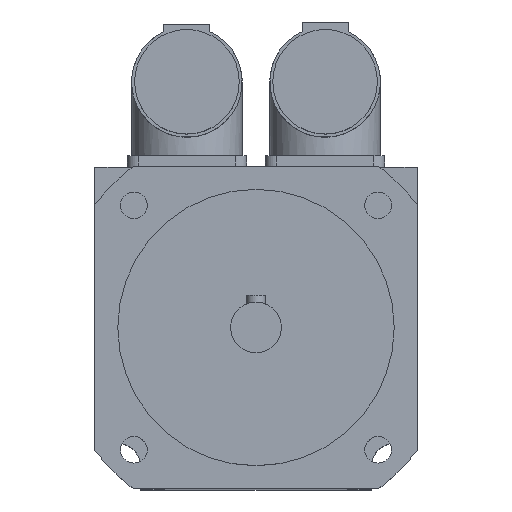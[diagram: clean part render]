
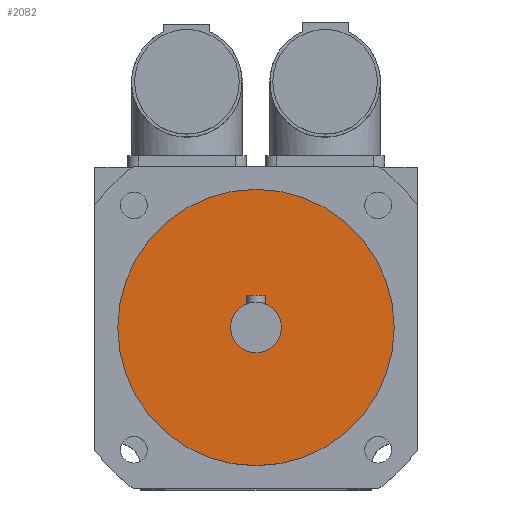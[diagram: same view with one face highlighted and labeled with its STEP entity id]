
A CAD part, top view. The second image highlights one B-rep face of the part: STEP entity #2082.
In plain terms, the highlighted planar face has unit normal (0, 0, 1).
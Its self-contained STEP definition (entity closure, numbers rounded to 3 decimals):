
#36=FACE_BOUND('',#359,.T.);
#61=CIRCLE('',#2206,5.5);
#62=CIRCLE('',#2209,30.);
#234=FACE_OUTER_BOUND('',#358,.T.);
#358=EDGE_LOOP('',(#1420));
#359=EDGE_LOOP('',(#1421));
#878=VERTEX_POINT('',#3179);
#879=VERTEX_POINT('',#3183);
#1092=EDGE_CURVE('',#878,#878,#61,.T.);
#1093=EDGE_CURVE('',#879,#879,#62,.T.);
#1420=ORIENTED_EDGE('',*,*,#1093,.T.);
#1421=ORIENTED_EDGE('',*,*,#1092,.T.);
#2019=PLANE('',#2211);
#2082=ADVANCED_FACE('',(#234,#36),#2019,.T.);
#2206=AXIS2_PLACEMENT_3D('',#3180,#2468,#2469);
#2209=AXIS2_PLACEMENT_3D('',#3184,#2474,#2475);
#2211=AXIS2_PLACEMENT_3D('',#3187,#2478,#2479);
#2468=DIRECTION('center_axis',(0.,0.,-1.));
#2469=DIRECTION('ref_axis',(-1.,0.,0.));
#2474=DIRECTION('center_axis',(0.,0.,1.));
#2475=DIRECTION('ref_axis',(-1.,0.,0.));
#2478=DIRECTION('center_axis',(0.,0.,1.));
#2479=DIRECTION('ref_axis',(1.,0.,0.));
#3179=CARTESIAN_POINT('',(5.5,0.,123.));
#3180=CARTESIAN_POINT('Origin',(0.,0.,123.));
#3183=CARTESIAN_POINT('',(30.,0.,123.));
#3184=CARTESIAN_POINT('Origin',(0.,0.,123.));
#3187=CARTESIAN_POINT('Origin',(0.,0.,
123.));
